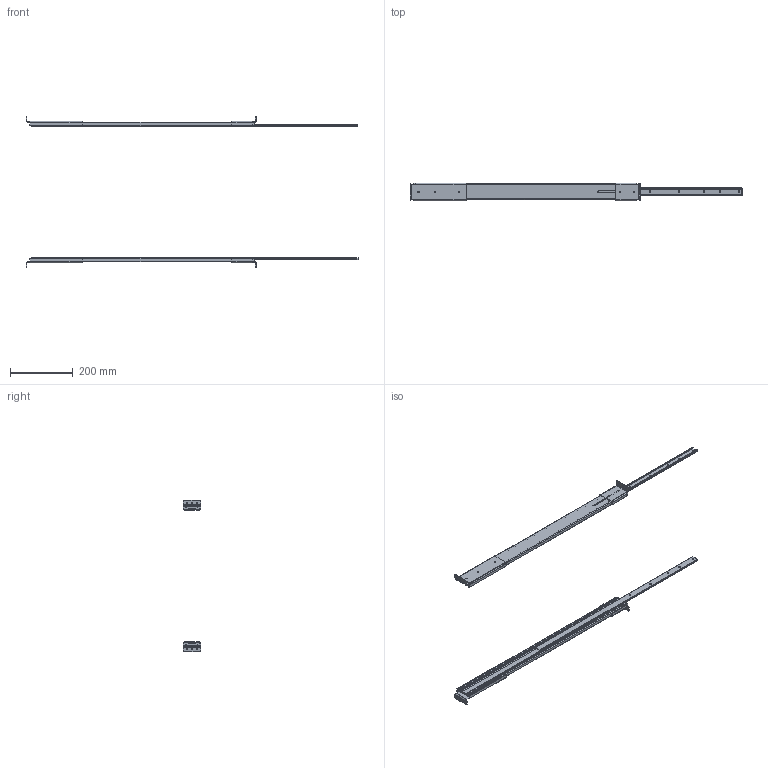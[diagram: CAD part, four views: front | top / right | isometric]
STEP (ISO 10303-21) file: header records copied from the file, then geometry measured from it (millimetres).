
FILE_DESCRIPTION (( 'STEP AP203' ), '1' );
FILE_NAME ('310113528.STEP', '2009-10-16T15:26:59', ( ' ' ), ( ' ' ), 'SwSTEP 2.0', 'SolidWorks 2009', '' );
FILE_SCHEMA (( 'CONFIG_CONTROL_DESIGN' ));
Length unit declared in the file: inch
Products named in the file (1): 310113528
Bounding box: 1059.05 x 56.01 x 482.4 mm (x, y, z)
Volume: 826567.7 mm3; surface area: 383929.6 mm2
Topology: 2 solids, 2 shells, 338 faces, 964 edges, 624 vertices
Faces by surface type: plane 174, cylinder 164
Entity records: 11233 total; most frequent: DIRECTION 1978, ORIENTED_EDGE 1928, CARTESIAN_POINT 1927, EDGE_CURVE 964, AXIS2_PLACEMENT_3D 675, VECTOR 628, LINE 628, VERTEX_POINT 624
